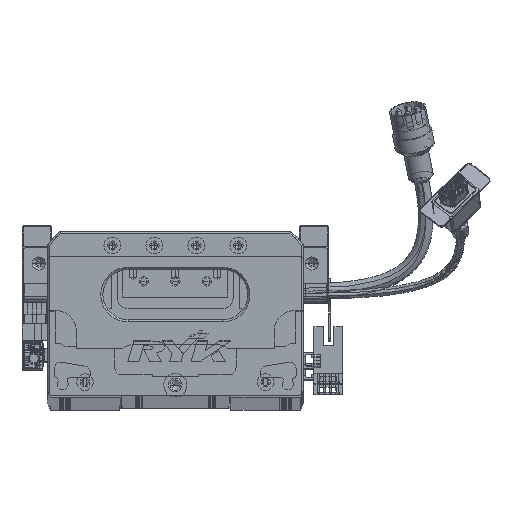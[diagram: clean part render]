
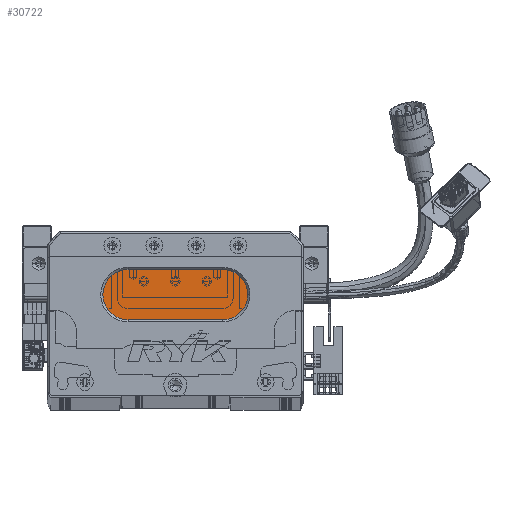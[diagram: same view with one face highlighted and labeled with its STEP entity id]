
A CAD part, top view. The second image highlights one B-rep face of the part: STEP entity #30722.
In plain terms, the highlighted planar face has unit normal (0, 0, 1) as drawn and (0, 0, -1) by its records, which use the part's own axes.
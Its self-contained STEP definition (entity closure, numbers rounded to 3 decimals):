
#1622 = DIRECTION ( 'NONE',  ( 1., 0., 0. ) ) ;
#5044 = AXIS2_PLACEMENT_3D ( 'NONE', #86123, #97616, #20827 ) ;
#11434 = VECTOR ( 'NONE', #1622, 1000. ) ;
#11697 = CARTESIAN_POINT ( 'NONE',  ( 83.5, 60., 13. ) ) ;
#13421 = EDGE_CURVE ( 'NONE', #123472, #34565, #37189, .T. ) ;
#18363 = CARTESIAN_POINT ( 'NONE',  ( 83.5, 48., 13. ) ) ;
#20827 = DIRECTION ( 'NONE',  ( -1., 0., 0. ) ) ;
#23800 = ORIENTED_EDGE ( 'NONE', *, *, #25883, .T. ) ;
#25883 = EDGE_CURVE ( 'NONE', #97236, #123472, #103650, .T. ) ;
#28658 = CARTESIAN_POINT ( 'NONE',  ( 38.5, 36., 13. ) ) ;
#29366 = CARTESIAN_POINT ( 'NONE',  ( 38.5, 48., 13. ) ) ;
#30722 = ADVANCED_FACE ( 'NONE', ( #125076 ), #95149, .T. ) ;
#33131 = CARTESIAN_POINT ( 'NONE',  ( 83.5, 60., 13. ) ) ;
#34565 = VERTEX_POINT ( 'NONE', #33131 ) ;
#37189 = LINE ( 'NONE', #11697, #11434 ) ;
#38159 = CIRCLE ( 'NONE', #135060, 12. ) ;
#39988 = CARTESIAN_POINT ( 'NONE',  ( 83.5, 48., 13. ) ) ;
#40890 = DIRECTION ( 'NONE',  ( -1., 0., 0. ) ) ;
#42334 = ORIENTED_EDGE ( 'NONE', *, *, #13421, .T. ) ;
#43877 = DIRECTION ( 'NONE',  ( -1., 0., 0. ) ) ;
#51448 = DIRECTION ( 'NONE',  ( -1., 0., 0. ) ) ;
#53332 = EDGE_CURVE ( 'NONE', #61509, #97236, #38159, .T. ) ;
#61509 = VERTEX_POINT ( 'NONE', #28658 ) ;
#63721 = VECTOR ( 'NONE', #43877, 1000. ) ;
#72500 = ORIENTED_EDGE ( 'NONE', *, *, #53332, .T. ) ;
#76848 = DIRECTION ( 'NONE',  ( -1., 0., 0. ) ) ;
#84470 = EDGE_CURVE ( 'NONE', #91137, #61509, #115308, .T. ) ;
#86123 = CARTESIAN_POINT ( 'NONE',  ( 38.5, 48., 13. ) ) ;
#86426 = EDGE_CURVE ( 'NONE', #34565, #91137, #115080, .T. ) ;
#89871 = CARTESIAN_POINT ( 'NONE',  ( 83.5, 36., 13. ) ) ;
#91137 = VERTEX_POINT ( 'NONE', #89871 ) ;
#95149 = PLANE ( 'NONE',  #97352 ) ;
#95464 = ORIENTED_EDGE ( 'NONE', *, *, #86426, .T. ) ;
#97236 = VERTEX_POINT ( 'NONE', #132401 ) ;
#97352 = AXIS2_PLACEMENT_3D ( 'NONE', #18363, #118657, #51448 ) ;
#97616 = DIRECTION ( 'NONE',  ( 0., 0., -1. ) ) ;
#103650 = CIRCLE ( 'NONE', #5044, 12. ) ;
#108609 = EDGE_LOOP ( 'NONE', ( #95464, #116655, #72500, #23800, #42334 ) ) ;
#115080 = CIRCLE ( 'NONE', #118420, 12. ) ;
#115308 = LINE ( 'NONE', #120720, #63721 ) ;
#116655 = ORIENTED_EDGE ( 'NONE', *, *, #84470, .T. ) ;
#118420 = AXIS2_PLACEMENT_3D ( 'NONE', #39988, #127806, #76848 ) ;
#118657 = DIRECTION ( 'NONE',  ( 0., 0., -1. ) ) ;
#120720 = CARTESIAN_POINT ( 'NONE',  ( 83.5, 36., 13. ) ) ;
#123472 = VERTEX_POINT ( 'NONE', #137229 ) ;
#125076 = FACE_OUTER_BOUND ( 'NONE', #108609, .T. ) ;
#127806 = DIRECTION ( 'NONE',  ( 0., 0., -1. ) ) ;
#130162 = DIRECTION ( 'NONE',  ( 0., 0., -1. ) ) ;
#132401 = CARTESIAN_POINT ( 'NONE',  ( 26.5, 48., 13. ) ) ;
#135060 = AXIS2_PLACEMENT_3D ( 'NONE', #29366, #130162, #40890 ) ;
#137229 = CARTESIAN_POINT ( 'NONE',  ( 38.5, 60., 13. ) ) ;
